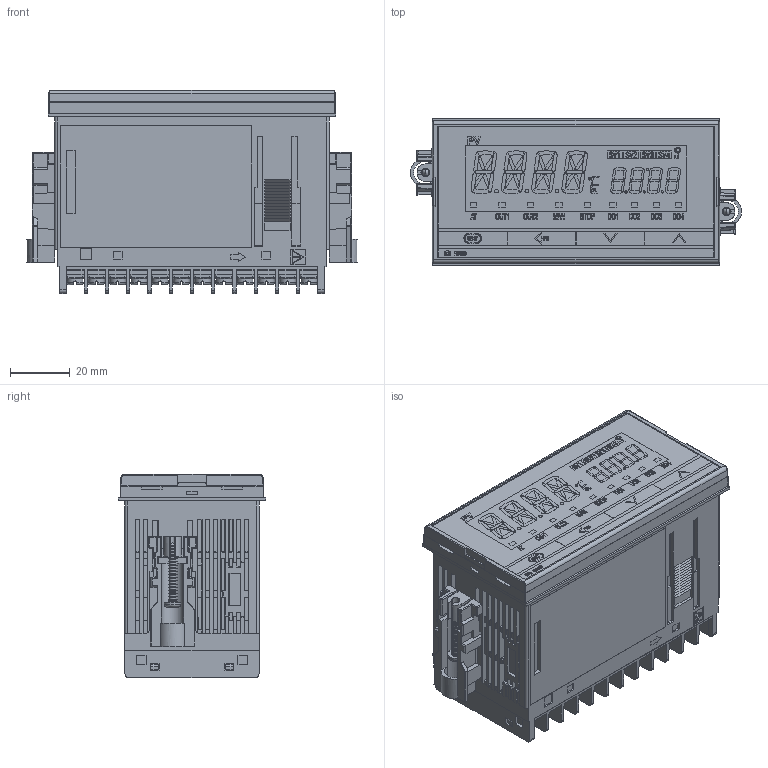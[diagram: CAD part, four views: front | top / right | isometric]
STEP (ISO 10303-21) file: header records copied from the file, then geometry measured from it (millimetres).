
FILE_DESCRIPTION (( 'STEP AP203' ), '1' );
FILE_NAME ('YIRB500-8.STEP', '2019-04-12T07:58:32', ( '' ), ( '' ), 'SwSTEP 2.0', 'SolidWorks 2018', '' );
FILE_SCHEMA (( 'CONFIG_CONTROL_DESIGN' ));
Length unit declared in the file: millimetre
Products named in the file (4): RB500(基本設計)_WEB; KFB400-36(1)_WEB; KRZ400-520_WEB; YIRB500-8
Assembly tree (4 placements, depth 2):
  YIRB500-8
    RB500(基本設計)_WEB
    KFB400-36(1)_WEB
    KRZ400-520_WEB  x2
Bounding box: 110.6 x 49.2 x 67.85 mm (x, y, z)
Volume: 256335.6 mm3; surface area: 57753.8 mm2
Topology: 7 solids, 7 shells, 8543 faces, 23546 edges, 15266 vertices
Faces by surface type: plane 6366, bspline 942, cylinder 879, cone 176, sphere 128, torus 52
Entity records: 274002 total; most frequent: CARTESIAN_POINT 75869, ORIENTED_EDGE 43834, DIRECTION 36195, EDGE_CURVE 21917, LINE 18237, VECTOR 18237, VERTEX_POINT 14317, AXIS2_PLACEMENT_3D 8979
